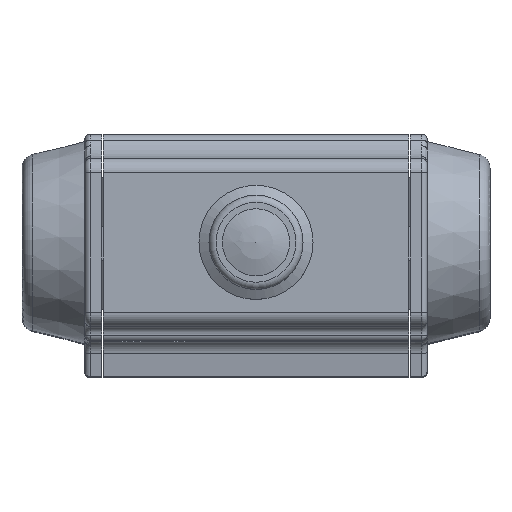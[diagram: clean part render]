
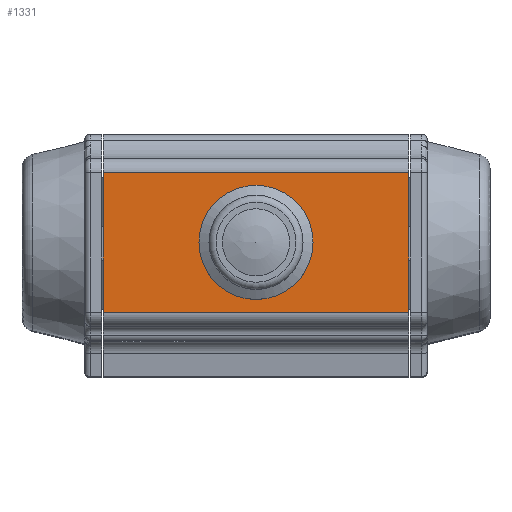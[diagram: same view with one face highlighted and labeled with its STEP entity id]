
A CAD part, top view. The second image highlights one B-rep face of the part: STEP entity #1331.
In plain terms, the highlighted planar face has unit normal (0, 0, 1).
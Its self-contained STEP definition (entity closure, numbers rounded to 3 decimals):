
#1331 = ADVANCED_FACE( '', ( #2795, #2796 ), #2797, .T. );
#2795 = FACE_BOUND( '', #5113, .T. );
#2796 = FACE_OUTER_BOUND( '', #5114, .T. );
#2797 = PLANE( '', #5115 );
#5113 = EDGE_LOOP( '', ( #9556 ) );
#5114 = EDGE_LOOP( '', ( #9557, #9558, #9559, #9560 ) );
#5115 = AXIS2_PLACEMENT_3D( '', #9561, #9562, #9563 );
#9556 = ORIENTED_EDGE( '', *, *, #11507, .F. );
#9557 = ORIENTED_EDGE( '', *, *, #11659, .F. );
#9558 = ORIENTED_EDGE( '', *, *, #10370, .F. );
#9559 = ORIENTED_EDGE( '', *, *, #11232, .T. );
#9560 = ORIENTED_EDGE( '', *, *, #11523, .T. );
#9561 = CARTESIAN_POINT( '', ( 53.5, -24.5, 42. ) );
#9562 = DIRECTION( '', ( 0., 0., 1. ) );
#9563 = DIRECTION( '', ( 1., 0., 0. ) );
#10370 = EDGE_CURVE( '', #12101, #12097, #12103, .T. );
#11232 = EDGE_CURVE( '', #12101, #13444, #13446, .T. );
#11507 = EDGE_CURVE( '', #13790, #13790, #13791, .T. );
#11523 = EDGE_CURVE( '', #13444, #13808, #13810, .T. );
#11659 = EDGE_CURVE( '', #12097, #13808, #13965, .T. );
#12097 = VERTEX_POINT( '', #15283 );
#12101 = VERTEX_POINT( '', #15288 );
#12103 = LINE( '', #15290, #15291 );
#13444 = VERTEX_POINT( '', #18630 );
#13446 = LINE( '', #18632, #18633 );
#13790 = VERTEX_POINT( '', #19800 );
#13791 = CIRCLE( '', #19801, 20. );
#13808 = VERTEX_POINT( '', #19939 );
#13810 = LINE( '', #19941, #19942 );
#13965 = LINE( '', #20548, #20549 );
#15283 = CARTESIAN_POINT( '', ( -53.5, -24.5, 42. ) );
#15288 = CARTESIAN_POINT( '', ( 53.5, -24.5, 42. ) );
#15290 = CARTESIAN_POINT( '', ( 53.5, -24.5, 42. ) );
#15291 = VECTOR( '', #20981, 1000. );
#18630 = CARTESIAN_POINT( '', ( 53.5, 24.5, 42. ) );
#18632 = CARTESIAN_POINT( '', ( 53.5, -24.5, 42. ) );
#18633 = VECTOR( '', #21881, 1000. );
#19800 = CARTESIAN_POINT( '', ( 20., 0., 42. ) );
#19801 = AXIS2_PLACEMENT_3D( '', #22131, #22132, #22133 );
#19939 = CARTESIAN_POINT( '', ( -53.5, 24.5, 42. ) );
#19941 = CARTESIAN_POINT( '', ( 53.5, 24.5, 42. ) );
#19942 = VECTOR( '', #22140, 1000. );
#20548 = CARTESIAN_POINT( '', ( -53.5, -24.5, 42. ) );
#20549 = VECTOR( '', #22211, 1000. );
#20981 = DIRECTION( '', ( -1., 0., 0. ) );
#21881 = DIRECTION( '', ( 0., 1., 0. ) );
#22131 = CARTESIAN_POINT( '', ( 0., 0., 42. ) );
#22132 = DIRECTION( '', ( 0., 0., 1. ) );
#22133 = DIRECTION( '', ( 1., 0., 0. ) );
#22140 = DIRECTION( '', ( -1., 0., 0. ) );
#22211 = DIRECTION( '', ( 0., 1., 0. ) );
